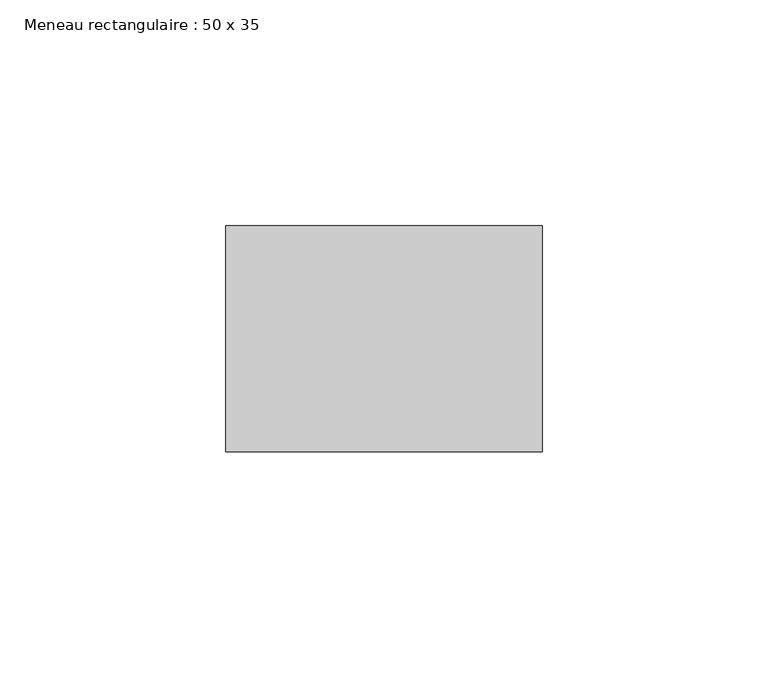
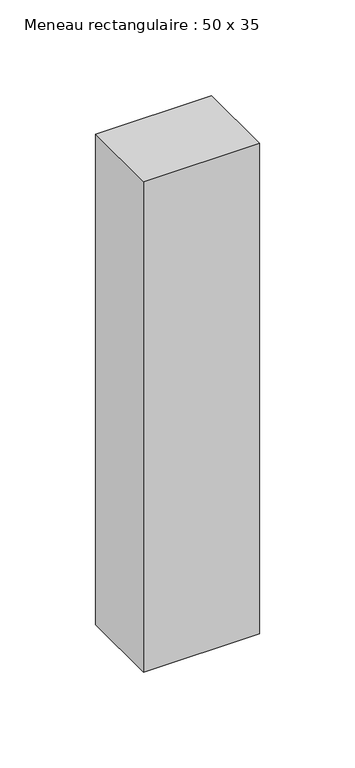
"""IFC4 building model written with IfcOpenShell, lengths in millimetres: member geometry, Meneau rectangulaire : 50 x 35."""

from ifc_helpers import new_model, si_unit, frame, origin, place, context, project, spatial, polyline, outline, extrude, source, transform, mapped, element, save


def meneau_rectangulaire_50_x_35_abbd607b(model_context):
    return source(origin(), model_context, "Body", "SweptSolid", [
        extrude(outline(polyline([(0.0, 0.0), (0.0, -50.0), (-70.0, -50.0), (-70.0, 0.0), (0.0, 0.0)])), frame((0.0, 0.0, -313.0), z_axis=(0.0, 0.0, 1.0), x_axis=(1.0, 0.0, 0.0)), (0.0, 0.0, 1.0), 313.0),
    ])


if __name__ == "__main__":
    model = new_model("IFC4")
    model_context = context("Model", 3, world=origin())
    ifc_project = project(units=[si_unit("LENGTHUNIT", "METRE", prefix="MILLI")], contexts=[model_context])
    site = spatial("IfcSite", under=ifc_project)
    building = spatial("IfcBuilding", under=site)
    placement = place(None, origin())
    meneau_rectangulaire_50_x_35_shape = meneau_rectangulaire_50_x_35_abbd607b(model_context)
    element("IfcMember", 1, ObjectType="Meneau rectangulaire : 50 x 35", at=placement, inside=building, context=model_context, shape_type="MappedRepresentation", body=[
        mapped(meneau_rectangulaire_50_x_35_shape, transform((0.0, 0.0, 0.0), x_axis=(1.0, 0.0, 0.0), y_axis=(0.0, 1.0, 0.0), z_axis=(0.0, 0.0, 1.0))),
    ])
    save(model, "model.ifc")
